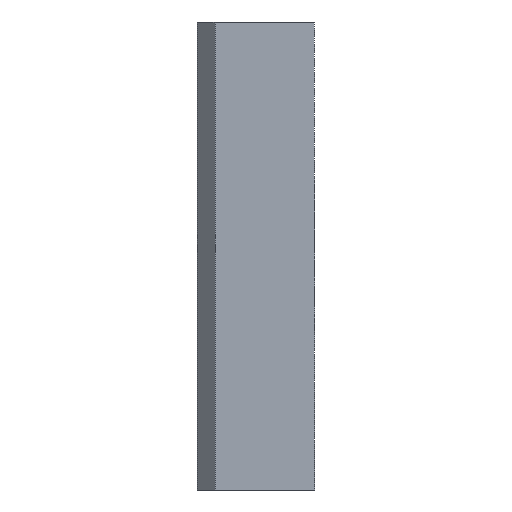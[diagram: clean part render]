
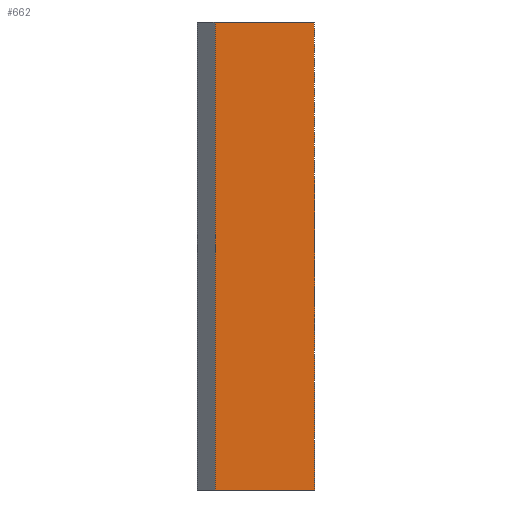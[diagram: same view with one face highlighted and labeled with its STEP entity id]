
A CAD part, front view. The second image highlights one B-rep face of the part: STEP entity #662.
In plain terms, the highlighted planar face has unit normal (0, -1, 0).
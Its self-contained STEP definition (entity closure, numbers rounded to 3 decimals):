
#286=CARTESIAN_POINT('Vertex',(20.,0.,-40.)) ;
#289=CARTESIAN_POINT('Line Origine',(11.5,0.,-40.)) ;
#293=CARTESIAN_POINT('Vertex',(3.,0.,-40.)) ;
#316=CARTESIAN_POINT('Line Origine',(3.,0.,0.)) ;
#320=CARTESIAN_POINT('Vertex',(3.,0.,40.)) ;
#340=CARTESIAN_POINT('Line Origine',(11.5,0.,40.)) ;
#344=CARTESIAN_POINT('Vertex',(20.,0.,40.)) ;
#571=CARTESIAN_POINT('Line Origine',(20.,0.,0.)) ;
#651=CARTESIAN_POINT('Axis2P3D Location',(3.,0.,40.)) ;
#290=DIRECTION('Vector Direction',(1.,0.,0.)) ;
#317=DIRECTION('Vector Direction',(0.,0.,-1.)) ;
#341=DIRECTION('Vector Direction',(1.,0.,0.)) ;
#572=DIRECTION('Vector Direction',(0.,0.,-1.)) ;
#652=DIRECTION('Axis2P3D Direction',(0.,1.,0.)) ;
#653=DIRECTION('Axis2P3D XDirection',(0.,-0.,1.)) ;
#654=AXIS2_PLACEMENT_3D('Plane Axis2P3D',#651,#652,#653) ;
#657=ORIENTED_EDGE('',*,*,#295,.T.) ;
#658=ORIENTED_EDGE('',*,*,#575,.F.) ;
#659=ORIENTED_EDGE('',*,*,#346,.F.) ;
#660=ORIENTED_EDGE('',*,*,#322,.T.) ;
#291=VECTOR('Line Direction',#290,1.) ;
#318=VECTOR('Line Direction',#317,1.) ;
#342=VECTOR('Line Direction',#341,1.) ;
#573=VECTOR('Line Direction',#572,1.) ;
#662=ADVANCED_FACE('A915-80X125',(#661),#655,.F.) ;
#295=EDGE_CURVE('',#294,#287,#292,.T.) ;
#322=EDGE_CURVE('',#321,#294,#319,.T.) ;
#346=EDGE_CURVE('',#321,#345,#343,.T.) ;
#575=EDGE_CURVE('',#345,#287,#574,.T.) ;
#656=EDGE_LOOP('',(#657,#658,#659,#660)) ;
#661=FACE_OUTER_BOUND('',#656,.T.) ;
#292=LINE('Line',#289,#291) ;
#319=LINE('Line',#316,#318) ;
#343=LINE('Line',#340,#342) ;
#574=LINE('Line',#571,#573) ;
#655=PLANE('Plane',#654) ;
#287=VERTEX_POINT('',#286) ;
#294=VERTEX_POINT('',#293) ;
#321=VERTEX_POINT('',#320) ;
#345=VERTEX_POINT('',#344) ;
